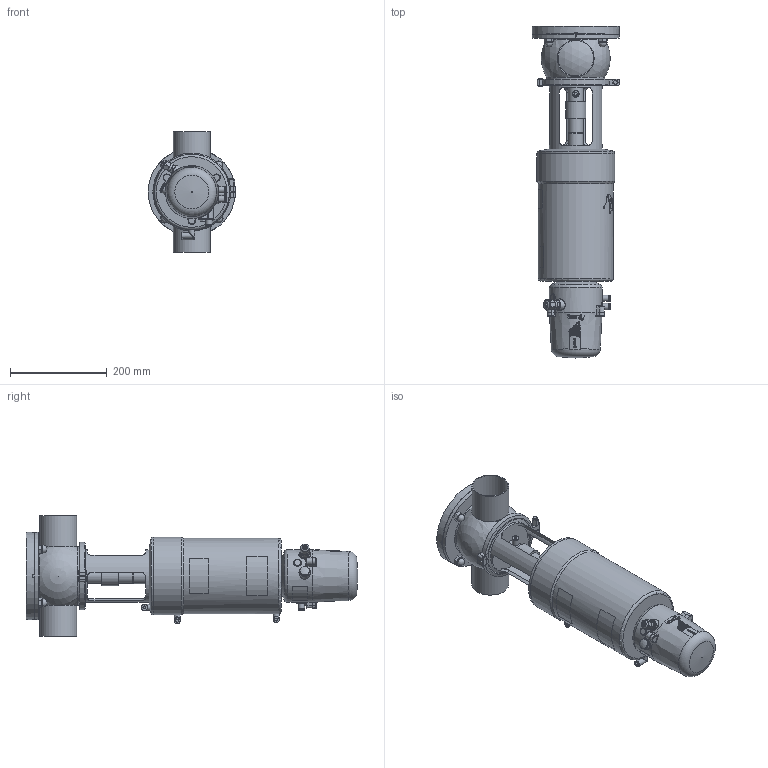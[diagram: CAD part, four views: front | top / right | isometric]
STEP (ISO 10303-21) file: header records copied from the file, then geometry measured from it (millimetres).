
FILE_DESCRIPTION (( 'STEP AP214' ), '1' );
FILE_NAME ('INNOVA T T W OD 3 & C-TOP S_10.252.16.0008.STEP', '2024-08-20T12:23:13', ( '' ), ( '' ), 'SwSTEP 2.0', 'SolidWorks 2023', '' );
FILE_SCHEMA (( 'AUTOMOTIVE_DESIGN' ));
Length unit declared in the file: millimetre
Products named in the file (7): 10.250.15.0002_Type T T2; 10.240.15.0001_DN 080; 10.252.15.0001_OD 3"; INNOVA T T W OD 3 & C-TOP S_10.252.16.0008; 10.248.15.0003_DIN 080 _ OD 3"; 10.426.15.0001_C-TOP S - 3 EV; 10.240.15.0007_OD 3"
Assembly tree (6 placements, depth 2):
  INNOVA T T W OD 3 & C-TOP S_10.252.16.0008
    10.240.15.0007_OD 3"
    10.248.15.0003_DIN 080 _ OD 3"
    10.252.15.0001_OD 3"
    10.250.15.0002_Type T T2
    10.240.15.0001_DN 080
    10.426.15.0001_C-TOP S - 3 EV
Bounding box: 181 x 686.43 x 250 mm (x, y, z)
Volume: 8986404.8 mm3; surface area: 622651.3 mm2
Topology: 6 solids, 6 shells, 1200 faces, 2887 edges, 1922 vertices
Faces by surface type: plane 417, cylinder 381, cone 196, bspline 162, torus 33, sphere 11
Full cylindrical faces by diameter (mm): 0.371 x17, 0.512 x16, 0.658 x16, 0.795 x16, 0.94 x15, 1.098 x15, 1.241 x13, 1.382 x13, 1.523 x11, 1.669 x10, 2.201 x1, 4.2 x2, 5 x1, 5.5 x2, 6 x5, 6.15 x3, 8 x3, 10 x1, 10.5 x3, 11 x4, 12 x1, 12.5 x9, 13 x6, 13.5 x2, 14 x2, 16 x4, 17 x3, 20 x2, 22 x2, 30.5 x2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
Entity records: 61562 total; most frequent: CARTESIAN_POINT 29311, ORIENTED_EDGE 4870, DIRECTION 4015, EDGE_CURVE 2435, VERTEX_POINT 1735, EDGE_LOOP 1698, AXIS2_PLACEMENT_3D 1627, FACE_OUTER_BOUND 1434
